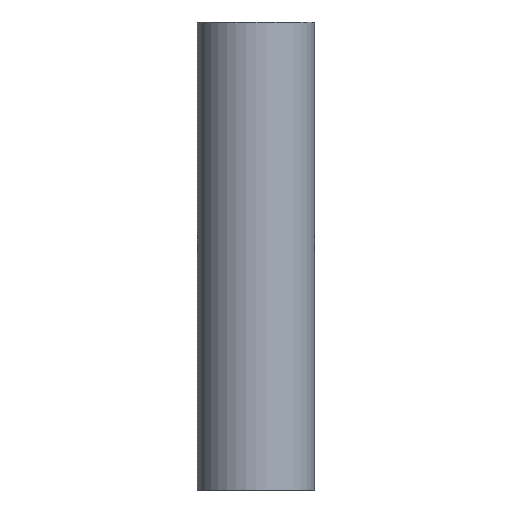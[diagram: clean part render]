
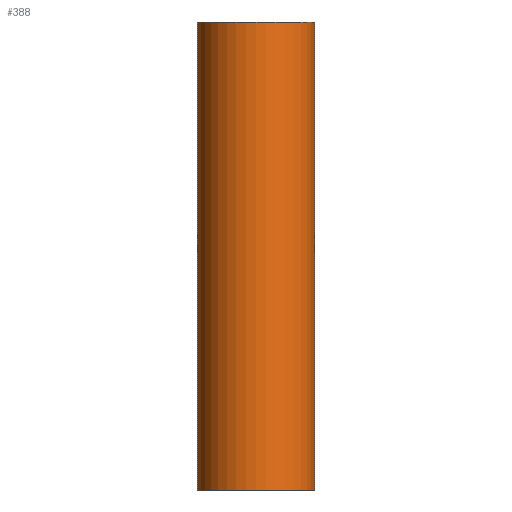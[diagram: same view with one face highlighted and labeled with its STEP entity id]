
A CAD part, front view. The second image highlights one B-rep face of the part: STEP entity #388.
In plain terms, the highlighted cylindrical face has radius 15 mm (diameter 30 mm), a partial arc.
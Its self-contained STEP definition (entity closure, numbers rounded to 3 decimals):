
#3=CARTESIAN_POINT('',(15.0,0.0,28.0));
#4=CARTESIAN_POINT('',(-15.0,0.0,28.0));
#5=CARTESIAN_POINT('',(15.0,0.0,148.0));
#6=CARTESIAN_POINT('',(-15.0,0.0,148.0));
#35=CARTESIAN_POINT('',(0.0,0.0,28.0));
#36=DIRECTION('',(0.0,0.0,1.0));
#37=DIRECTION('',(1.0,0.0,0.0));
#38=AXIS2_PLACEMENT_3D('',#35,#36,#37);
#39=CIRCLE('',#38,15.0);
#40=TRIMMED_CURVE('',#39,(#4),(#3),.T.,.CARTESIAN.);
#47=CARTESIAN_POINT('',(0.0,0.0,148.0));
#48=DIRECTION('',(0.0,0.0,1.0));
#49=DIRECTION('',(1.0,0.0,0.0));
#50=AXIS2_PLACEMENT_3D('',#47,#48,#49);
#51=CIRCLE('',#50,15.0);
#52=TRIMMED_CURVE('',#51,(#6),(#5),.T.,.CARTESIAN.);
#119=DIRECTION('',(0.0,0.0,1.0));
#120=VECTOR('',#119,1.0);
#121=LINE('',#3,#120);
#122=DIRECTION('',(0.0,0.0,1.0));
#123=VECTOR('',#122,1.0);
#124=LINE('',#4,#123);
#176=CARTESIAN_POINT('',(0.0,0.0,0.0));
#177=DIRECTION('',(0.0,0.0,1.0));
#178=DIRECTION('',(0.0,-1.0,0.0));
#179=AXIS2_PLACEMENT_3D('',#176,#177,#178);
#180=CYLINDRICAL_SURFACE('',#179,15.0);
#243=VERTEX_POINT('',#3);
#244=VERTEX_POINT('',#4);
#245=VERTEX_POINT('',#5);
#246=VERTEX_POINT('',#6);
#260=EDGE_CURVE('',#244,#243,#40,.T.);
#262=EDGE_CURVE('',#246,#245,#52,.T.);
#275=EDGE_CURVE('',#243,#245,#121,.T.);
#276=EDGE_CURVE('',#244,#246,#124,.T.);
#301=ORIENTED_EDGE('',*,*,#260,.T.);
#302=ORIENTED_EDGE('',*,*,#275,.T.);
#303=ORIENTED_EDGE('',*,*,#262,.F.);
#304=ORIENTED_EDGE('',*,*,#276,.F.);
#356=EDGE_LOOP('',(#301,#302,#303,#304));
#372=FACE_OUTER_BOUND('',#356,.T.);
#388=ADVANCED_FACE('',(#372),#180,.T.);
